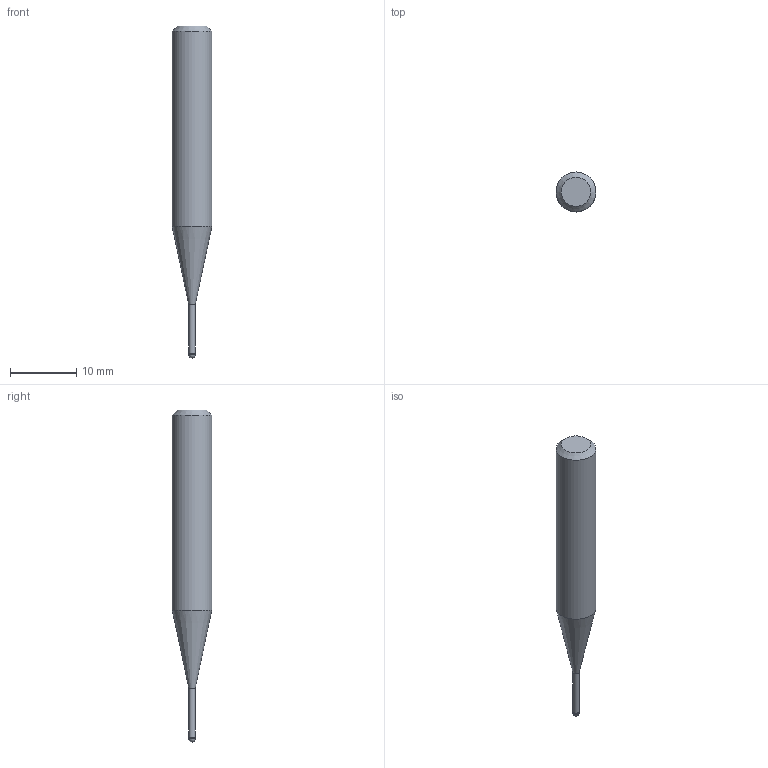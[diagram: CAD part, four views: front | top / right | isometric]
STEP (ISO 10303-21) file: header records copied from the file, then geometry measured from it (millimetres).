
FILE_DESCRIPTION((''),'2;1');
FILE_NAME('C:\Users\nsx150\AppData\Local\Temp\Mastercam 2021\ARV7HD45SN\TEMP.step','2023-06-13T16:35:38',(''),(''),'STEP Write','Mastercam 2021 ... CNC Software, Inc.','');
FILE_SCHEMA(('AUTOMOTIVE_DESIGN'));
Length unit declared in the file: millimetre
Products named in the file (1): None
Bounding box: 6 x 6 x 50 mm (x, y, z)
Volume: 984.2 mm3; surface area: 744.4 mm2
Topology: 2 solids, 2 shells, 9 faces, 14 edges, 8 vertices
Faces by surface type: plane 3, cylinder 3, cone 2, sphere 1
Full cylindrical faces by diameter (mm): 0.95 x1, 1 x1, 6 x1
Entity records: 211 total; most frequent: DIRECTION 36, CARTESIAN_POINT 25, AXIS2_PLACEMENT_3D 18, ORIENTED_EDGE 14, EDGE_LOOP 14, STYLED_ITEM 12, ADVANCED_FACE 9, FACE_BOUND 8
